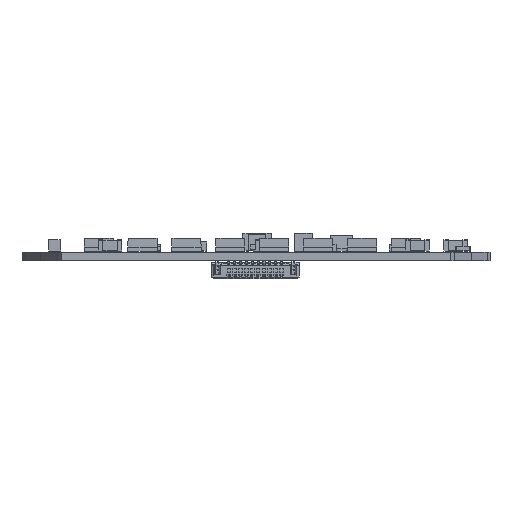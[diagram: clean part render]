
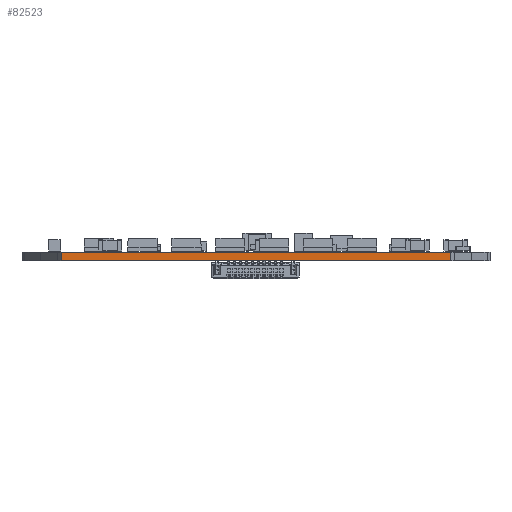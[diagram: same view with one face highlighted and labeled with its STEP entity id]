
A CAD part, front view. The second image highlights one B-rep face of the part: STEP entity #82523.
In plain terms, the highlighted planar face has unit normal (0, -1, 0).
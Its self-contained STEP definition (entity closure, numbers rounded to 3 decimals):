
#81698 = PLANE('',#81699);
#81699 = AXIS2_PLACEMENT_3D('',#81700,#81701,#81702);
#81700 = CARTESIAN_POINT('',(-0.005,-1.224,0.6));
#81701 = DIRECTION('',(0.,0.,1.));
#81702 = DIRECTION('',(1.,0.,-0.));
#81752 = PLANE('',#81753);
#81753 = AXIS2_PLACEMENT_3D('',#81754,#81755,#81756);
#81754 = CARTESIAN_POINT('',(-0.005,-1.224,0.));
#81755 = DIRECTION('',(0.,0.,1.));
#81756 = DIRECTION('',(1.,0.,-0.));
#82415 = PLANE('',#82416);
#82416 = AXIS2_PLACEMENT_3D('',#82417,#82418,#82419);
#82417 = CARTESIAN_POINT('',(-13.558,-13.006,0.));
#82418 = DIRECTION('',(0.846,0.533,-0.));
#82419 = DIRECTION('',(0.533,-0.846,0.));
#82453 = VERTEX_POINT('',#82454);
#82454 = CARTESIAN_POINT('',(-13.317,-13.389,0.6));
#82475 = EDGE_CURVE('',#82476,#82453,#82478,.T.);
#82476 = VERTEX_POINT('',#82477);
#82477 = CARTESIAN_POINT('',(-13.317,-13.389,0.));
#82478 = SURFACE_CURVE('',#82479,(#82483,#82490),.PCURVE_S1.);
#82479 = LINE('',#82480,#82481);
#82480 = CARTESIAN_POINT('',(-13.317,-13.389,0.));
#82481 = VECTOR('',#82482,1.);
#82482 = DIRECTION('',(0.,0.,1.));
#82483 = PCURVE('',#82415,#82484);
#82484 = DEFINITIONAL_REPRESENTATION('',(#82485),#82489);
#82485 = LINE('',#82486,#82487);
#82486 = CARTESIAN_POINT('',(0.453,0.));
#82487 = VECTOR('',#82488,1.);
#82488 = DIRECTION('',(0.,-1.));
#82489 = ( GEOMETRIC_REPRESENTATION_CONTEXT(2) 
PARAMETRIC_REPRESENTATION_CONTEXT() REPRESENTATION_CONTEXT('2D SPACE',''
  ) );
#82490 = PCURVE('',#82491,#82496);
#82491 = PLANE('',#82492);
#82492 = AXIS2_PLACEMENT_3D('',#82493,#82494,#82495);
#82493 = CARTESIAN_POINT('',(-13.317,-13.389,0.));
#82494 = DIRECTION('',(0.,1.,0.));
#82495 = DIRECTION('',(1.,0.,0.));
#82496 = DEFINITIONAL_REPRESENTATION('',(#82497),#82501);
#82497 = LINE('',#82498,#82499);
#82498 = CARTESIAN_POINT('',(0.,0.));
#82499 = VECTOR('',#82500,1.);
#82500 = DIRECTION('',(0.,-1.));
#82501 = ( GEOMETRIC_REPRESENTATION_CONTEXT(2) 
PARAMETRIC_REPRESENTATION_CONTEXT() REPRESENTATION_CONTEXT('2D SPACE',''
  ) );
#82523 = ADVANCED_FACE('',(#82524),#82491,.F.);
#82524 = FACE_BOUND('',#82525,.F.);
#82525 = EDGE_LOOP('',(#82526,#82527,#82550,#82578));
#82526 = ORIENTED_EDGE('',*,*,#82475,.T.);
#82527 = ORIENTED_EDGE('',*,*,#82528,.T.);
#82528 = EDGE_CURVE('',#82453,#82529,#82531,.T.);
#82529 = VERTEX_POINT('',#82530);
#82530 = CARTESIAN_POINT('',(13.304,-13.389,0.6));
#82531 = SURFACE_CURVE('',#82532,(#82536,#82543),.PCURVE_S1.);
#82532 = LINE('',#82533,#82534);
#82533 = CARTESIAN_POINT('',(-13.317,-13.389,0.6));
#82534 = VECTOR('',#82535,1.);
#82535 = DIRECTION('',(1.,0.,0.));
#82536 = PCURVE('',#82491,#82537);
#82537 = DEFINITIONAL_REPRESENTATION('',(#82538),#82542);
#82538 = LINE('',#82539,#82540);
#82539 = CARTESIAN_POINT('',(0.,-0.6));
#82540 = VECTOR('',#82541,1.);
#82541 = DIRECTION('',(1.,0.));
#82542 = ( GEOMETRIC_REPRESENTATION_CONTEXT(2) 
PARAMETRIC_REPRESENTATION_CONTEXT() REPRESENTATION_CONTEXT('2D SPACE',''
  ) );
#82543 = PCURVE('',#81698,#82544);
#82544 = DEFINITIONAL_REPRESENTATION('',(#82545),#82549);
#82545 = LINE('',#82546,#82547);
#82546 = CARTESIAN_POINT('',(-13.312,-12.165));
#82547 = VECTOR('',#82548,1.);
#82548 = DIRECTION('',(1.,0.));
#82549 = ( GEOMETRIC_REPRESENTATION_CONTEXT(2) 
PARAMETRIC_REPRESENTATION_CONTEXT() REPRESENTATION_CONTEXT('2D SPACE',''
  ) );
#82550 = ORIENTED_EDGE('',*,*,#82551,.F.);
#82551 = EDGE_CURVE('',#82552,#82529,#82554,.T.);
#82552 = VERTEX_POINT('',#82553);
#82553 = CARTESIAN_POINT('',(13.304,-13.389,0.));
#82554 = SURFACE_CURVE('',#82555,(#82559,#82566),.PCURVE_S1.);
#82555 = LINE('',#82556,#82557);
#82556 = CARTESIAN_POINT('',(13.304,-13.389,0.));
#82557 = VECTOR('',#82558,1.);
#82558 = DIRECTION('',(0.,0.,1.));
#82559 = PCURVE('',#82491,#82560);
#82560 = DEFINITIONAL_REPRESENTATION('',(#82561),#82565);
#82561 = LINE('',#82562,#82563);
#82562 = CARTESIAN_POINT('',(26.621,0.));
#82563 = VECTOR('',#82564,1.);
#82564 = DIRECTION('',(0.,-1.));
#82565 = ( GEOMETRIC_REPRESENTATION_CONTEXT(2) 
PARAMETRIC_REPRESENTATION_CONTEXT() REPRESENTATION_CONTEXT('2D SPACE',''
  ) );
#82566 = PCURVE('',#82567,#82572);
#82567 = PLANE('',#82568);
#82568 = AXIS2_PLACEMENT_3D('',#82569,#82570,#82571);
#82569 = CARTESIAN_POINT('',(13.304,-13.389,0.));
#82570 = DIRECTION('',(-0.847,0.531,0.));
#82571 = DIRECTION('',(0.531,0.847,0.));
#82572 = DEFINITIONAL_REPRESENTATION('',(#82573),#82577);
#82573 = LINE('',#82574,#82575);
#82574 = CARTESIAN_POINT('',(0.,0.));
#82575 = VECTOR('',#82576,1.);
#82576 = DIRECTION('',(0.,-1.));
#82577 = ( GEOMETRIC_REPRESENTATION_CONTEXT(2) 
PARAMETRIC_REPRESENTATION_CONTEXT() REPRESENTATION_CONTEXT('2D SPACE',''
  ) );
#82578 = ORIENTED_EDGE('',*,*,#82579,.F.);
#82579 = EDGE_CURVE('',#82476,#82552,#82580,.T.);
#82580 = SURFACE_CURVE('',#82581,(#82585,#82592),.PCURVE_S1.);
#82581 = LINE('',#82582,#82583);
#82582 = CARTESIAN_POINT('',(-13.317,-13.389,0.));
#82583 = VECTOR('',#82584,1.);
#82584 = DIRECTION('',(1.,0.,0.));
#82585 = PCURVE('',#82491,#82586);
#82586 = DEFINITIONAL_REPRESENTATION('',(#82587),#82591);
#82587 = LINE('',#82588,#82589);
#82588 = CARTESIAN_POINT('',(0.,0.));
#82589 = VECTOR('',#82590,1.);
#82590 = DIRECTION('',(1.,0.));
#82591 = ( GEOMETRIC_REPRESENTATION_CONTEXT(2) 
PARAMETRIC_REPRESENTATION_CONTEXT() REPRESENTATION_CONTEXT('2D SPACE',''
  ) );
#82592 = PCURVE('',#81752,#82593);
#82593 = DEFINITIONAL_REPRESENTATION('',(#82594),#82598);
#82594 = LINE('',#82595,#82596);
#82595 = CARTESIAN_POINT('',(-13.312,-12.165));
#82596 = VECTOR('',#82597,1.);
#82597 = DIRECTION('',(1.,0.));
#82598 = ( GEOMETRIC_REPRESENTATION_CONTEXT(2) 
PARAMETRIC_REPRESENTATION_CONTEXT() REPRESENTATION_CONTEXT('2D SPACE',''
  ) );
